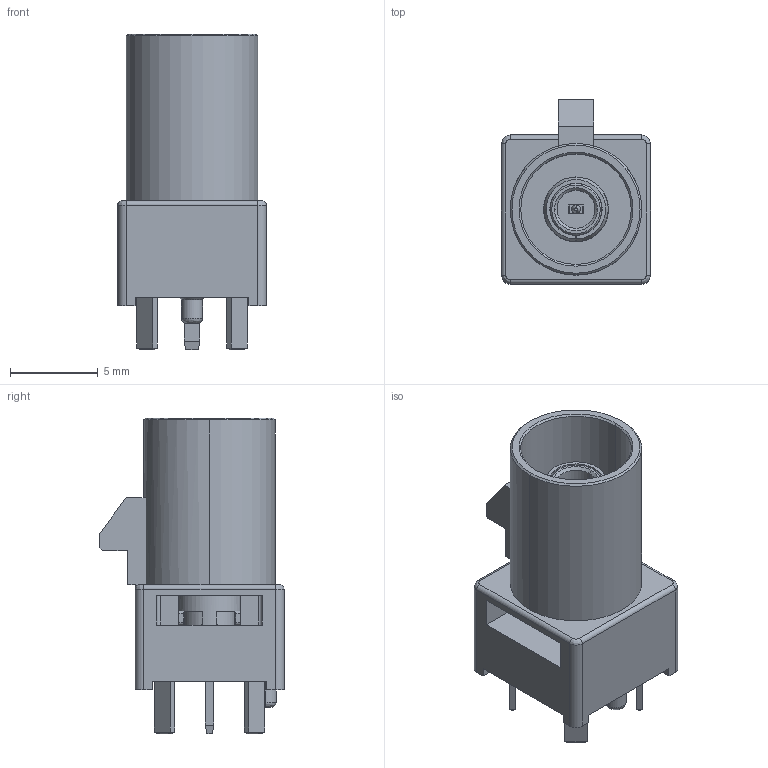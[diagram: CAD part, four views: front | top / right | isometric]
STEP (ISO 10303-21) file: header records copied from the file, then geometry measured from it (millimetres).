
FILE_DESCRIPTION((''),'2;1');
FILE_NAME('CRC5001-6401F','2022-03-12T23:42:15',('smknikai'),(''),'CREO PARAMETRIC BY PTC INC, 2020454','CREO PARAMETRIC BY PTC INC, 2020454','');
FILE_SCHEMA(('AP242_MANAGED_MODEL_BASED_3D_ENGINEERING_MIM_LF { 1 0 10303 442 1 1 4 }'));
Length unit declared in the file: millimetre
Products named in the file (1): CRC5001-6401F
Bounding box: 8.5 x 10.5 x 18 mm (x, y, z)
Volume: 569.9 mm3; surface area: 1396.6 mm2
Topology: 1 solids, 1 shells, 541 faces, 1510 edges, 946 vertices
Faces by surface type: plane 397, cylinder 84, cone 38, torus 8, sphere 8, bspline 6
Entity records: 22215 total; most frequent: CARTESIAN_POINT 4192, ORIENTED_EDGE 3012, DIRECTION 2724, EDGE_CURVE 1506, VECTOR 1018, LINE 1018, VERTEX_POINT 946, AXIS2_PLACEMENT_3D 853
